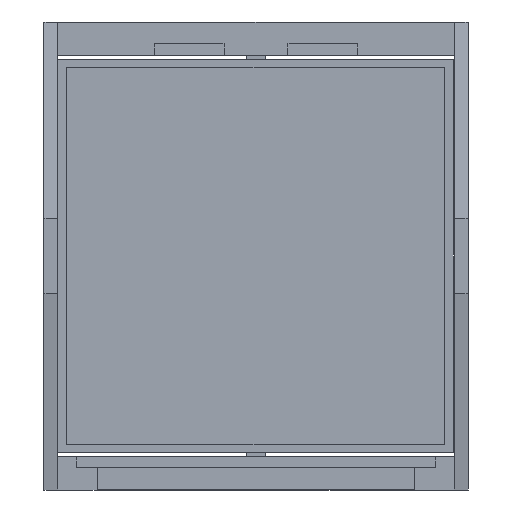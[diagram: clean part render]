
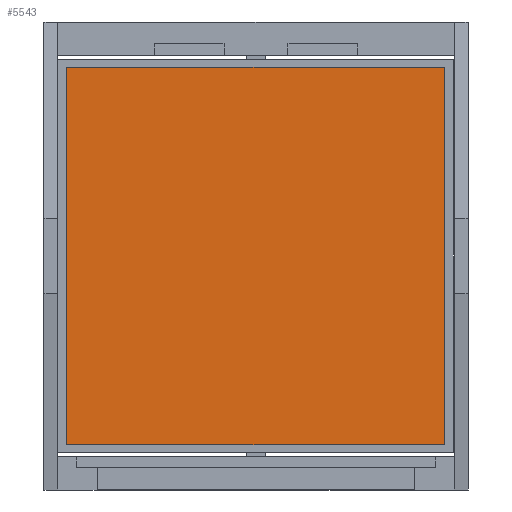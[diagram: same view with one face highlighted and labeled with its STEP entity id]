
A CAD part, front view. The second image highlights one B-rep face of the part: STEP entity #5543.
In plain terms, the highlighted planar face has unit normal (0, -1, 0).
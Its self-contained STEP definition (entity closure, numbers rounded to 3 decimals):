
#27 = LINE ( 'NONE', #5864, #7517 ) ;
#469 = CARTESIAN_POINT ( 'NONE',  ( -13.476, -2.324, 17.577 ) ) ;
#597 = DIRECTION ( 'NONE',  ( 0., 0., -1. ) ) ;
#682 = EDGE_CURVE ( 'NONE', #3883, #8563, #4094, .T. ) ;
#1197 = CARTESIAN_POINT ( 'NONE',  ( -13.476, -2.324, -20.423 ) ) ;
#1811 = EDGE_CURVE ( 'NONE', #3120, #7600, #7659, .T. ) ;
#2150 = EDGE_LOOP ( 'NONE', ( #5578, #5286, #8651, #5928 ) ) ;
#2205 = DIRECTION ( 'NONE',  ( 0., 1., 0. ) ) ;
#2244 = AXIS2_PLACEMENT_3D ( 'NONE', #8593, #2205, #7351 ) ;
#3120 = VERTEX_POINT ( 'NONE', #5617 ) ;
#3883 = VERTEX_POINT ( 'NONE', #5282 ) ;
#4094 = LINE ( 'NONE', #9172, #9419 ) ;
#4733 = EDGE_CURVE ( 'NONE', #7600, #3883, #27, .T. ) ;
#5255 = CARTESIAN_POINT ( 'NONE',  ( 24.524, -2.324, 17.577 ) ) ;
#5282 = CARTESIAN_POINT ( 'NONE',  ( 24.524, -2.324, -20.423 ) ) ;
#5286 = ORIENTED_EDGE ( 'NONE', *, *, #682, .F. ) ;
#5373 = CARTESIAN_POINT ( 'NONE',  ( -13.476, -2.324, -20.423 ) ) ;
#5543 = ADVANCED_FACE ( 'NONE', ( #7304 ), #5656, .F. ) ;
#5578 = ORIENTED_EDGE ( 'NONE', *, *, #6712, .F. ) ;
#5617 = CARTESIAN_POINT ( 'NONE',  ( -13.476, -2.324, 17.577 ) ) ;
#5656 = PLANE ( 'NONE',  #2244 ) ;
#5714 = VECTOR ( 'NONE', #6786, 1000. ) ;
#5864 = CARTESIAN_POINT ( 'NONE',  ( 24.524, -2.324, -20.423 ) ) ;
#5928 = ORIENTED_EDGE ( 'NONE', *, *, #1811, .F. ) ;
#6712 = EDGE_CURVE ( 'NONE', #8563, #3120, #6831, .T. ) ;
#6786 = DIRECTION ( 'NONE',  ( 0., 0., 1. ) ) ;
#6831 = LINE ( 'NONE', #5373, #5714 ) ;
#7304 = FACE_OUTER_BOUND ( 'NONE', #2150, .T. ) ;
#7351 = DIRECTION ( 'NONE',  ( 0., 0., 1. ) ) ;
#7517 = VECTOR ( 'NONE', #597, 1000. ) ;
#7600 = VERTEX_POINT ( 'NONE', #5255 ) ;
#7659 = LINE ( 'NONE', #469, #8489 ) ;
#8489 = VECTOR ( 'NONE', #9274, 1000. ) ;
#8563 = VERTEX_POINT ( 'NONE', #1197 ) ;
#8593 = CARTESIAN_POINT ( 'NONE',  ( -13.476, -2.324, 17.577 ) ) ;
#8601 = DIRECTION ( 'NONE',  ( -1., 0., 0. ) ) ;
#8651 = ORIENTED_EDGE ( 'NONE', *, *, #4733, .F. ) ;
#9172 = CARTESIAN_POINT ( 'NONE',  ( -13.476, -2.324, -20.423 ) ) ;
#9274 = DIRECTION ( 'NONE',  ( 1., 0., 0. ) ) ;
#9419 = VECTOR ( 'NONE', #8601, 1000. ) ;
